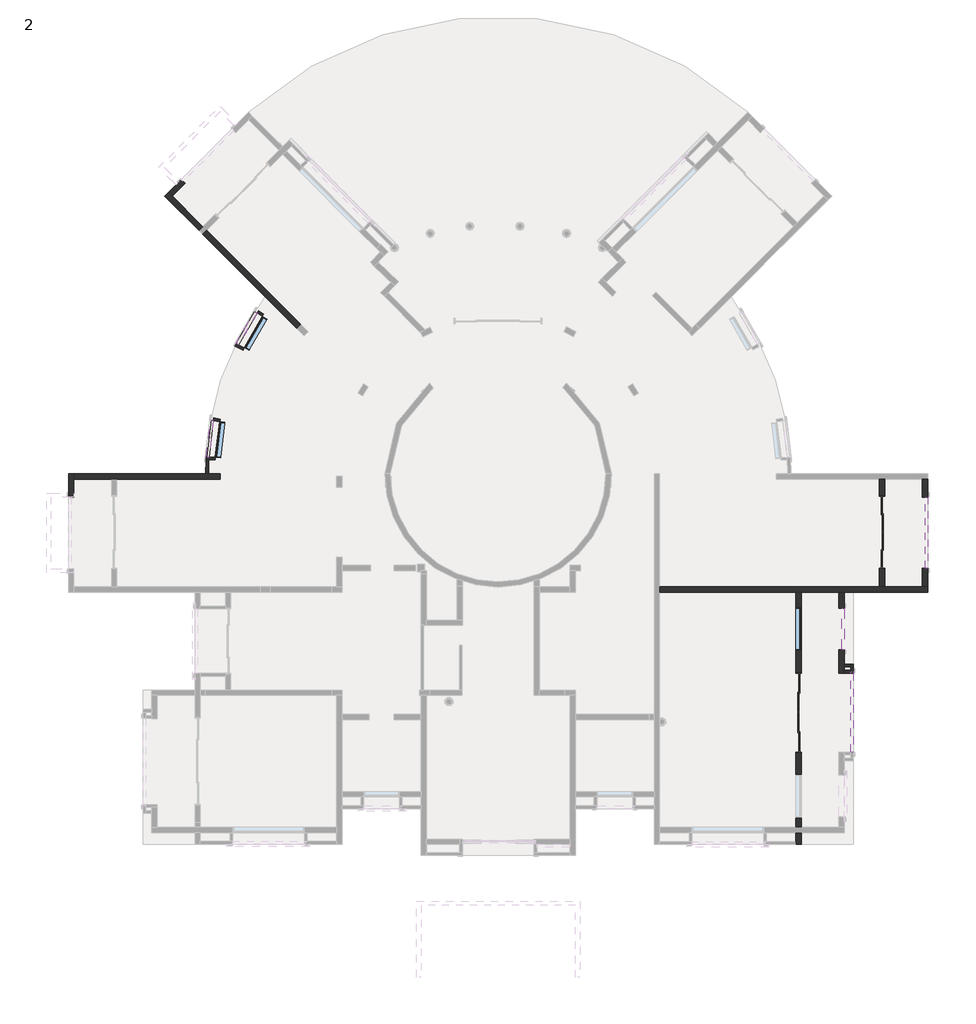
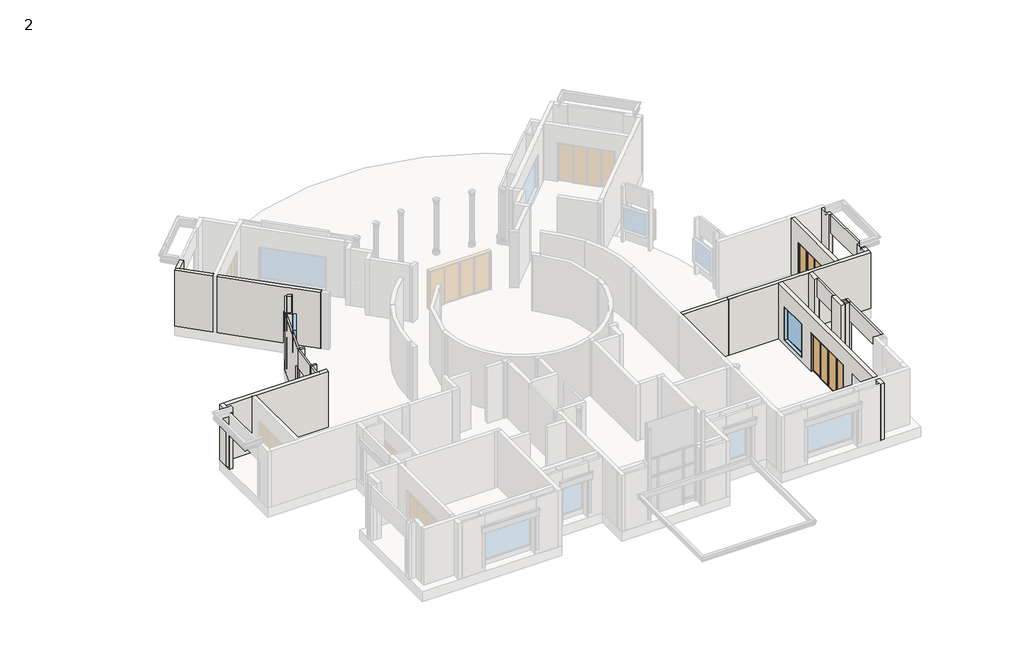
# One storey, part 3 of 10: 28 walls, 3 windows, 2 doors.
"""IFC4 building model written with IfcOpenShell, lengths in millimetres."""

from ifc_helpers import new_model, si_unit, point, frame, frame_2d, origin, origin_with_axes, place, context, project, spatial, polyline, circle_curve, trimmed, segment, composite_curve, outline, extrude, faceted_brep, transform, mapped, element, save
from ifc_brep_helpers import plane_surface, cylinder_surface, revolved_surface, advanced_brep
from components import aus_sliding_door_4_panel_type_3_7ec97240, aus_sliding_door_4_panel_type_4_3ae0efee, fixed_w2_3_782477aa, fixed_w4_aaa7ff72

model = new_model("IFC4")

# Units and contexts
model_context = context("Model", 3, world=origin())
ifc_project = project(units=[si_unit("LENGTHUNIT", "METRE", prefix="MILLI")], contexts=[model_context])

# Site, building, storey
site = spatial("IfcSite", under=ifc_project)
building = spatial("IfcBuilding", under=site)
storey = spatial("IfcBuildingStorey", under=building, Name="2", Elevation=0.0)

# Doors
placement = place(None, origin())
aus_sliding_door_4_panel_type_3_shape = aus_sliding_door_4_panel_type_3_7ec97240(model_context)
element("IfcDoor", 1, ObjectType="AUS_Sliding Door 4 Panel : Type 3", at=placement, inside=storey, context=model_context, shape_type="MappedRepresentation", body=[
    mapped(aus_sliding_door_4_panel_type_3_shape, transform((7918.2049094, -1857.8613299, 0.0), x_axis=(0.0, -1.0, 0.0), y_axis=(1.0, 0.0, 0.0), z_axis=(0.0, 0.0, 1.0))),
])
aus_sliding_door_4_panel_type_4_shape = aus_sliding_door_4_panel_type_4_3ae0efee(model_context)
element("IfcDoor", 2, ObjectType="AUS_Sliding Door 4 Panel : Type 4", at=placement, inside=storey, context=model_context, shape_type="MappedRepresentation", body=[
    mapped(aus_sliding_door_4_panel_type_4_shape, transform((4374.9049094, -9686.6761775, 0.0), x_axis=(0.0, 1.0, 0.0), y_axis=(-1.0, 0.0, 0.0), z_axis=(0.0, 0.0, 1.0))),
])

# Walls
element("IfcWall", 3, ObjectType="115mm BK WALL", at=placement, inside=storey, context=model_context, shape_type="AdvancedBrep", body=[
    advanced_brep(
    [(-20795.18386, 1125.8117433, 3581.4), (-20809.1950906, 536.0156211, 3581.4), (-20694.8950906, 536.0156211, 3581.4), (-20680.7535757, 1125.8117433, 3581.4), (-20809.1950906, 536.0156211, 0.0), (-20795.18386, 1125.8117433, 0.0), (-20680.7535757, 1125.8117433, 0.0), (-20694.8950906, 536.0156211, 0.0), (-20795.18386, 1125.8117433, 2933.7), (-20795.18386, 1125.8117433, 2438.4), (-20795.18386, 1125.8117433, 946.15), (-20795.18386, 1125.8117433, 762.0)],
    [
        (0, 1, circle_curve(frame((-8388.5950906, 536.0156211, 3581.4), z_axis=(0.0, 0.0, 1.0), x_axis=(1.0, 0.0, 0.0)), 12420.6)),
        (1, 2),
        (2, 3, circle_curve(frame((-8388.5950906, 536.0156211, 3581.4), z_axis=(0.0, 0.0, -1.0), x_axis=(1.0, 0.0, 0.0)), 12306.3)),
        (3, 0),
        (4, 5, circle_curve(frame((-8388.5950906, 536.0156211, 0.0), z_axis=(0.0, 0.0, -1.0), x_axis=(1.0, 0.0, 0.0)), 12420.6)),
        (5, 6),
        (6, 7, circle_curve(frame((-8388.5950906, 536.0156211, 0.0), z_axis=(0.0, 0.0, 1.0), x_axis=(1.0, 0.0, 0.0)), 12306.3)),
        (7, 4),
        (0, 8),
        (8, 9),
        (9, 10),
        (10, 11),
        (11, 5),
        (4, 1),
        (7, 2),
        (6, 3),
    ],
    [
        plane_surface(frame((4032.0049094, 536.0156211, 3581.4), z_axis=(0.0, 0.0, 1.0), x_axis=(0.0, 1.0, 0.0))),
        plane_surface(frame((4032.0049094, 536.0156211, 0.0), z_axis=(0.0, 0.0, -1.0), x_axis=(0.0, -1.0, 0.0))),
        cylinder_surface(frame((-8388.5950906, 536.0156211, 0.0), z_axis=(0.0, 0.0, 1.0), x_axis=(1.0, 0.0, 0.0)), 12420.6),
        plane_surface(frame((-20809.1950906, 536.0156211, 3581.4), z_axis=(0.0, -1.0, 0.0), x_axis=(0.0, 0.0, -1.0))),
        revolved_surface(polyline([(3917.7049093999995, 536.0156211, 0.0), (3917.7049093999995, 536.0156211, 3581.4)]), (-8388.5950906, 536.0156211, 0.0), (0.0, 0.0, -1.0)),
        plane_surface(frame((-20674.7364027, 1125.8117433, 0.0), z_axis=(0.0, 1.0, 0.0), x_axis=(1.0, 0.0, 0.0))),
    ],
    [
        (0, [[1, 2, 3, 4]]),
        (1, [[5, 6, 7, 8]]),
        (2, [[-1, 9, 10, 11, 12, 13, -5, 14]]),
        (3, [[-2, -14, -8, 15]]),
        (4, [[-3, -15, -7, 16]]),
        (5, [[-6, -13, -12, -11, -10, -9, -4, -16]]),
    ],
),
])
element("IfcWall", 4, ObjectType="115mm BK WALL", at=placement, inside=storey, context=model_context, shape_type="AdvancedBrep", body=[
    advanced_brep(
    [(-19563.3882612, 5957.7590635, 3581.4), (-20598.9292774, 2811.7667949, 3581.4), (-20486.7569253, 2789.7902129, 3581.4), (-20465.2981509, 2902.078918, 3581.4), (-19461.0231386, 5906.8960713, 3581.4), (-20598.9292774, 2811.7667949, 0.0), (-19563.3882612, 5957.7590635, 0.0), (-19461.0231386, 5906.8960713, 0.0), (-20465.2981509, 2902.078918, 0.0), (-20486.7569253, 2789.7902129, 0.0), (-19563.3882612, 5957.7590635, 2933.7), (-19563.3882612, 5957.7590635, 2438.4), (-19563.3882612, 5957.7590635, 914.4), (-19563.3882612, 5957.7590635, 730.25), (-20598.9292774, 2811.7667949, 762.0), (-20598.9292774, 2811.7667949, 914.4), (-20598.9292774, 2811.7667949, 946.15), (-20598.9292774, 2811.7667949, 2438.4), (-20598.9292774, 2811.7667949, 2933.7), (-20486.7569253, 2789.7902129, 2438.4), (-20486.7569253, 2789.7902129, 914.4)],
    [
        (0, 1, circle_curve(frame((-8388.5950906, 536.0156211, 3581.4), z_axis=(0.0, 0.0, 1.0), x_axis=(1.0, 0.0, 0.0)), 12420.6)),
        (1, 2),
        (2, 3, circle_curve(frame((-8388.5950906, 536.0156211, 3581.4), z_axis=(0.0, 0.0, -1.0), x_axis=(1.0, 0.0, 0.0)), 12306.3)),
        (3, 4, circle_curve(frame((-8388.5950906, 536.0156211, 3581.4), z_axis=(0.0, 0.0, -1.0), x_axis=(1.0, 0.0, 0.0)), 12306.299701)),
        (4, 0),
        (5, 6, circle_curve(frame((-8388.5950906, 536.0156211, 0.0), z_axis=(0.0, 0.0, -1.0), x_axis=(1.0, 0.0, 0.0)), 12420.6)),
        (6, 7),
        (7, 8, circle_curve(frame((-8388.5950906, 536.0156211, 0.0), z_axis=(0.0, 0.0, 1.0), x_axis=(1.0, 0.0, 0.0)), 12306.3)),
        (8, 9, circle_curve(frame((-8388.5950906, 536.0156211, 0.0), z_axis=(0.0, 0.0, 1.0), x_axis=(1.0, 0.0, 0.0)), 12306.299701)),
        (9, 5),
        (0, 10),
        (10, 11),
        (11, 12),
        (12, 13),
        (13, 6),
        (5, 14),
        (14, 15),
        (15, 16),
        (16, 17),
        (17, 18),
        (18, 1),
        (2, 19),
        (19, 20),
        (20, 9),
        (7, 4),
    ],
    [
        plane_surface(frame((4032.0049094, 536.0156211, 3581.4), z_axis=(0.0, 0.0, 1.0), x_axis=(0.0, 1.0, 0.0))),
        plane_surface(frame((4032.0049094, 536.0156211, 0.0), z_axis=(0.0, 0.0, -1.0), x_axis=(0.0, -1.0, 0.0))),
        cylinder_surface(frame((-8388.5950906, 536.0156211, 0.0), z_axis=(0.0, 0.0, 1.0), x_axis=(1.0, 0.0, 0.0)), 12420.6),
        revolved_surface(polyline([(3917.7049093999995, 536.0156211, 0.0), (3917.7049093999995, 536.0156211, 3581.4)]), (-8388.5950906, 536.0156211, 0.0), (0.0, 0.0, -1.0)),
        plane_surface(frame((-20461.9793314, 2784.9358365, 0.0), z_axis=(-0.1922628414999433, -0.9813434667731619, 0.0), x_axis=(0.9813434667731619, -0.1922628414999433, 0.0))),
        plane_surface(frame((-19461.5218603, 5907.1438752, 0.0), z_axis=(0.4449755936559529, 0.8955426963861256, 0.0), x_axis=(0.8955426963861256, -0.4449755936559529, 0.0))),
    ],
    [
        (0, [[1, 2, 3, 4, 5]]),
        (1, [[6, 7, 8, 9, 10]]),
        (2, [[-1, 11, 12, 13, 14, 15, -6, 16, 17, 18, 19, 20, 21]]),
        (3, [[-4, -3, 22, 23, 24, -9, -8, 25]]),
        (4, [[-10, -24, -23, -22, -2, -21, -20, -19, -18, -17, -16]]),
        (5, [[-7, -15, -14, -13, -12, -11, -5, -25]]),
    ],
),
])
element("IfcWall", 5, ObjectType="115mm BK WALL", at=placement, inside=storey, context=model_context, shape_type="SweptSolid", body=[
    extrude(outline(composite_curve([segment(polyline([(-18404.9130327, 7213.1009528), (-18627.5335334, 7363.1057226)]), True, "CONTINUOUS"), segment(trimmed(circle_curve(frame_2d((-8388.5950906, 536.0156211)), 12306.3), [point((-18627.5335334, 7363.1057226))], [point((-18563.6830763, 7457.9087273))], False, "CARTESIAN"), True, "CONTINUOUS"), segment(polyline([(-18563.6830763, 7457.9087273), (-18341.0425501, 7307.8904641)]), True, "CONTINUOUS"), segment(trimmed(circle_curve(frame_2d((-8388.5950906, 532.8806689)), 12039.6), [point((-18341.0425501, 7307.8904641))], [point((-18404.9130327, 7213.1009528))], True, "CARTESIAN"), True, "CONTINUOUS")], self_intersect=False)), origin_with_axes(), (0.0, 0.0, 1.0), 3581.4),
])
element("IfcWall", 6, ObjectType="115mm BK WALL", at=placement, inside=storey, context=model_context, shape_type="AdvancedBrep", body=[
    advanced_brep(
    [(-19563.3882612, 5957.7590635, 0.0), (-19461.0231386, 5906.8960713, 0.0), (-19220.9457488, 5787.6068632, 0.0), (-19220.9457488, 5787.6068632, 3581.4), (-19461.0231386, 5906.8960713, 3581.4), (-19563.3882612, 5957.7590635, 3581.4), (-19563.3882612, 5957.7590635, 2933.7), (-19563.3882612, 5957.7590635, 2438.4), (-19563.3882612, 5957.7590635, 914.4), (-19563.3882612, 5957.7590635, 730.25), (-19170.570938, 5890.2088262, 0.0), (-19410.66115, 6009.5044054, 0.0), (-19513.0216828, 6060.3651171, 0.0), (-19513.0216828, 6060.3651171, 730.25), (-19513.0216828, 6060.3651171, 914.4), (-19513.0216828, 6060.3651171, 2438.4), (-19513.0216828, 6060.3651171, 2933.7), (-19513.0216828, 6060.3651171, 3581.4), (-19410.66115, 6009.5044054, 3581.4), (-19170.570938, 5890.2088262, 3581.4)],
    [
        (0, 1),
        (1, 2),
        (2, 3),
        (3, 4),
        (4, 5),
        (5, 6),
        (6, 7),
        (7, 8),
        (8, 9),
        (9, 0),
        (10, 11),
        (11, 12),
        (12, 13),
        (13, 14),
        (14, 15),
        (15, 16),
        (16, 17),
        (17, 18),
        (18, 19),
        (19, 10),
        (0, 12, circle_curve(frame((-8388.5950906, 536.0156211, 0.0), z_axis=(0.0, 0.0, -1.0), x_axis=(1.0, 0.0, 0.0)), 12420.6)),
        (10, 2, circle_curve(frame((-8388.5950906, 532.8806689, 0.0), z_axis=(0.0, 0.0, 1.0), x_axis=(1.0, 0.0, 0.0)), 12039.6)),
        (3, 19, circle_curve(frame((-8388.5950906, 532.8806689, 3581.4), z_axis=(0.0, 0.0, -1.0), x_axis=(1.0, 0.0, 0.0)), 12039.6)),
        (17, 5, circle_curve(frame((-8388.5950906, 536.0156211, 3581.4), z_axis=(0.0, 0.0, 1.0), x_axis=(1.0, 0.0, 0.0)), 12420.6)),
    ],
    [
        plane_surface(frame((-19461.5218603, 5907.1438752, 0.0), z_axis=(-0.4449755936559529, -0.8955426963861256, 0.0), x_axis=(0.8955426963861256, -0.4449755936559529, 0.0))),
        plane_surface(frame((-19410.66115, 6009.5044054, 0.0), z_axis=(0.4449755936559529, 0.8955426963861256, 0.0), x_axis=(-0.8955426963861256, 0.4449755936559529, 0.0))),
        plane_surface(frame((-19512.5722137, 5932.5096801, 0.0), z_axis=(0.0, 0.0, -1.0), x_axis=(0.444975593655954, 0.895542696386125, 0.0))),
        plane_surface(frame((-19118.948481, 5736.92665, 3581.4), z_axis=(0.0, 0.0, 1.0), x_axis=(0.444975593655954, 0.895542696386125, 0.0))),
        cylinder_surface(frame((-8388.5950906, 536.0156211, 0.0), z_axis=(0.0, 0.0, 1.0), x_axis=(1.0, 0.0, 0.0)), 12420.6),
        revolved_surface(polyline([(3651.0049094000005, 532.8806689, 3581.4), (3651.0049094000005, 532.8806689, 0.0)]), (-8388.5950906, 532.8806689, 0.0), (0.0, 0.0, 1.0)),
    ],
    [
        (0, [[1, 2, 3, 4, 5, 6, 7, 8, 9, 10]]),
        (1, [[11, 12, 13, 14, 15, 16, 17, 18, 19, 20]]),
        (2, [[-2, -1, 21, -12, -11, 22]]),
        (3, [[-5, -4, 23, -19, -18, 24]]),
        (4, [[-21, -10, -9, -8, -7, -6, -24, -17, -16, -15, -14, -13]]),
        (5, [[-3, -22, -20, -23]]),
    ],
),
])
element("IfcWall", 7, ObjectType="115mm BK WALL", at=placement, inside=storey, context=model_context, shape_type="SweptSolid", body=[
    extrude(outline(composite_curve([segment(polyline([(-20224.4578706, 2738.4011088), (-20486.7569253, 2789.7902129)]), True, "CONTINUOUS"), segment(trimmed(circle_curve(frame_2d((-8388.5950906, 536.0156211)), 12306.3), [point((-20486.7569253, 2789.7902129))], [point((-20465.3021957, 2902.0598275))], False, "CARTESIAN"), True, "CONTINUOUS"), segment(polyline([(-20465.3021957, 2902.0598275), (-20202.9860175, 2850.6673686)]), True, "CONTINUOUS"), segment(trimmed(circle_curve(frame_2d((-8388.5950906, 532.8806689)), 12039.6), [point((-20202.9860175, 2850.6673686))], [point((-20224.4578706, 2738.4011088))], True, "CARTESIAN"), True, "CONTINUOUS")], self_intersect=False)), origin_with_axes(), (0.0, 0.0, 1.0), 3581.4),
])
element("IfcWall", 8, ObjectType="115mm BK WALL", at=placement, inside=storey, context=model_context, shape_type="AdvancedBrep", body=[
    advanced_brep(
    [(-20795.18386, 1125.8117433, 0.0), (-20680.7535757, 1125.8117433, 0.0), (-20413.5857725, 1125.8117433, 0.0), (-20413.5857725, 1125.8117433, 3581.4), (-20680.7535757, 1125.8117433, 3581.4), (-20795.18386, 1125.8117433, 3581.4), (-20795.18386, 1125.8117433, 2933.7), (-20795.18386, 1125.8117433, 2438.4), (-20795.18386, 1125.8117433, 946.15), (-20795.18386, 1125.8117433, 762.0), (-20407.4050303, 1240.1117433, 0.0), (-20674.7364027, 1240.1117433, 0.0), (-20789.2222122, 1240.1117433, 0.0), (-20789.2222122, 1240.1117433, 762.0), (-20789.2222122, 1240.1117433, 914.4), (-20789.2222122, 1240.1117433, 946.15), (-20789.2222122, 1240.1117433, 2438.4), (-20789.2222122, 1240.1117433, 2933.7), (-20789.2222122, 1240.1117433, 3581.4), (-20674.7364027, 1240.1117433, 3581.4), (-20407.4050303, 1240.1117433, 3581.4)],
    [
        (0, 1),
        (1, 2),
        (2, 3),
        (3, 4),
        (4, 5),
        (5, 6),
        (6, 7),
        (7, 8),
        (8, 9),
        (9, 0),
        (10, 11),
        (11, 12),
        (12, 13),
        (13, 14),
        (14, 15),
        (15, 16),
        (16, 17),
        (17, 18),
        (18, 19),
        (19, 20),
        (20, 10),
        (0, 12, circle_curve(frame((-8388.5950906, 536.0156211, 0.0), z_axis=(0.0, 0.0, -1.0), x_axis=(1.0, 0.0, 0.0)), 12420.6)),
        (10, 2, circle_curve(frame((-8388.5950906, 532.8806689, 0.0), z_axis=(0.0, 0.0, 1.0), x_axis=(1.0, 0.0, 0.0)), 12039.6)),
        (3, 20, circle_curve(frame((-8388.5950906, 532.8806689, 3581.4), z_axis=(0.0, 0.0, -1.0), x_axis=(1.0, 0.0, 0.0)), 12039.6)),
        (18, 5, circle_curve(frame((-8388.5950906, 536.0156211, 3581.4), z_axis=(0.0, 0.0, 1.0), x_axis=(1.0, 0.0, 0.0)), 12420.6)),
    ],
    [
        plane_surface(frame((-20674.7364027, 1125.8117433, 0.0), z_axis=(0.0, -1.0, 0.0), x_axis=(1.0, 0.0, 0.0))),
        plane_surface(frame((-20674.7364027, 1240.1117433, 0.0), z_axis=(0.0, 1.0, 0.0), x_axis=(-1.0, 0.0, 0.0))),
        plane_surface(frame((-20735.1070117, 1125.8117433, 0.0), z_axis=(0.0, 0.0, -1.0), x_axis=(0.0, 1.0, 0.0))),
        plane_surface(frame((-20296.1630491, 1125.8117433, 3581.4), z_axis=(0.0, 0.0, 1.0), x_axis=(0.0, 1.0, 0.0))),
        cylinder_surface(frame((-8388.5950906, 536.0156211, 0.0), z_axis=(0.0, 0.0, 1.0), x_axis=(1.0, 0.0, 0.0)), 12420.6),
        revolved_surface(polyline([(3651.0049094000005, 532.8806689, 3581.4), (3651.0049094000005, 532.8806689, 0.0)]), (-8388.5950906, 532.8806689, 0.0), (0.0, 0.0, 1.0)),
    ],
    [
        (0, [[1, 2, 3, 4, 5, 6, 7, 8, 9, 10]]),
        (1, [[11, 12, 13, 14, 15, 16, 17, 18, 19, 20, 21]]),
        (2, [[-2, -1, 22, -12, -11, 23]]),
        (3, [[-5, -4, 24, -20, -19, 25]]),
        (4, [[-22, -10, -9, -8, -7, -6, -25, -18, -17, -16, -15, -14, -13]]),
        (5, [[-3, -23, -21, -24]]),
    ],
),
])
element("IfcWall", 9, ObjectType="115mm BK WALL", at=placement, inside=storey, context=model_context, shape_type="Brep", body=[
    faceted_brep([(6317.0878641, -7924.5181763, 0.0), (6583.6550044, -7924.5181763, 0.0), (6583.6550044, -7924.5181763, 2438.4), (6583.6550044, -7924.5181763, 3581.4), (6317.0878641, -7924.5181763, 3581.4), (6583.6550044, -7810.2181763, 0.0), (6317.0878641, -7810.2181763, 0.0), (6317.0878641, -7810.2181763, 3581.4), (6583.6550044, -7810.2181763, 3581.4), (6583.6550044, -7867.3681763, 3581.4)], [[[0, 1, 2, 3, 4]], [[5, 6, 7, 8]], [[1, 0, 6, 5]], [[4, 3, 9, 8, 7]], [[0, 4, 7, 6]], [[1, 5, 8, 9, 3, 2]]]),
])
element("IfcWall", 10, ObjectType="115mm BK WALL", at=placement, inside=storey, context=model_context, shape_type="Brep", body=[
    faceted_brep([(6697.9550044, -7924.5181763, 0.0), (6697.9550044, -7543.5181763, 0.0), (6697.9550044, -7543.5181763, 3581.4), (6697.9550044, -7867.3681763, 3581.4), (6697.9550044, -7867.3681763, 2933.7), (6697.9550044, -7867.3681763, 2438.4), (6697.9550044, -7924.5181763, 2438.4), (6583.6550044, -7543.5181763, 0.0), (6583.6550044, -7657.8181763, 0.0), (6583.6550044, -7810.2181763, 0.0), (6583.6550044, -7924.5181763, 0.0), (6583.6550044, -7924.5181763, 2438.4), (6583.6550044, -7867.3681763, 2438.4), (6583.6550044, -7867.3681763, 3581.4), (6583.6550044, -7810.2181763, 3581.4), (6583.6550044, -7657.8181763, 3581.4), (6583.6550044, -7543.5181763, 3581.4)], [[[0, 1, 2, 3, 4, 5, 6]], [[7, 8, 9, 10, 11, 12, 13, 14, 15, 16]], [[1, 0, 10, 9, 8, 7]], [[3, 2, 16, 15, 14, 13]], [[2, 1, 7, 16]], [[3, 13, 12, 5, 4]], [[5, 12, 11, 6]], [[0, 6, 11, 10]]]),
])
element("IfcWall", 11, ObjectType="115mm BK WALL", at=placement, inside=storey, context=model_context, shape_type="SweptSolid", body=[
    extrude(outline(polyline([(6317.0878641, -7543.5181763), (6583.6550044, -7543.5181763), (6583.6550044, -7657.8181763), (6317.0878641, -7657.8181763), (6317.0878641, -7543.5181763)])), origin_with_axes(), (0.0, 0.0, 1.0), 3581.4),
])
element("IfcWall", 12, ObjectType="115mm BK WALL", at=placement, inside=storey, context=model_context, shape_type="Brep", body=[
    faceted_brep([(9747.0049094, -457.7193311, 2438.4), (9747.0049094, -3467.6193311, 2438.4), (9747.0049094, -3467.6193311, 3581.4), (9747.0049094, -457.7193311, 3581.4), (9861.3049094, -3467.6193311, 2438.4), (9861.3049094, -457.7193311, 2438.4), (9861.3049094, -457.7193311, 2933.7), (9861.3049094, -457.7193311, 3581.4), (9861.3049094, -3467.6193311, 3581.4), (9861.3049094, -3467.6193311, 2933.7)], [[[0, 1, 2, 3]], [[4, 5, 6, 7, 8, 9]], [[1, 0, 5, 4]], [[2, 1, 4, 9, 8]], [[3, 2, 8, 7]], [[0, 3, 7, 6, 5]]]),
])
element("IfcWall", 13, ObjectType="115mm BK WALL", at=placement, inside=storey, context=model_context, shape_type="Brep", body=[
    faceted_brep([(6583.6550044, -7867.3681763, 2438.4), (6583.6550044, -7924.5181763, 2438.4), (6583.6550044, -11277.3181763, 2438.4), (6583.6550044, -11277.3181763, 3581.4), (6583.6550044, -7924.5181763, 3581.4), (6583.6550044, -7867.3681763, 3581.4), (6697.9550044, -7867.3681763, 2438.4), (6697.9550044, -7867.3681763, 3581.4), (6697.9550044, -11277.3181763, 3581.4), (6697.9550044, -11277.3181763, 2438.4), (6697.9550044, -7924.5181763, 2438.4)], [[[0, 1, 2, 3, 4, 5]], [[6, 7, 8, 9, 10]], [[2, 1, 0, 6, 10, 9]], [[5, 4, 3, 8, 7]], [[0, 5, 7, 6]], [[3, 2, 9, 8]]]),
])
element("IfcWall", 14, ObjectType="115mm BK WALL", at=placement, inside=storey, context=model_context, shape_type="SweptSolid", body=[
    extrude(outline(polyline([(6317.0878641, -5169.4193311), (6317.0878641, -6932.4276926), (6202.7878641, -6932.4276926), (6202.7878641, -5169.4193311), (6317.0878641, -5169.4193311)])), frame((0.0, 0.0, 2438.4), z_axis=(0.0, 0.0, 1.0), x_axis=(1.0, 0.0, 0.0)), (0.0, 0.0, 1.0), 1143.0),
])
element("IfcWall", 15, ObjectType="115mm BK WALL", at=placement, inside=storey, context=model_context, shape_type="AdvancedBrep", body=[
    advanced_brep(
    [(-20598.9292774, 2811.7667949, 3581.4), (-20789.2222122, 1240.1117433, 3581.4), (-20674.7364027, 1240.1117433, 3581.4), (-20486.7569253, 2789.7902129, 3581.4), (-20789.2222122, 1240.1117433, 2438.4), (-20598.9292774, 2811.7667949, 2438.4), (-20486.7569253, 2789.7902129, 2438.4), (-20674.7364027, 1240.1117433, 2438.4), (-20598.9292774, 2811.7667949, 2933.7), (-20789.2222122, 1240.1117433, 2933.7)],
    [
        (0, 1, circle_curve(frame((-8388.5950904, 536.0156211, 3581.4), z_axis=(0.0, 0.0, 1.0), x_axis=(1.0, 0.0, 0.0)), 12420.6000002)),
        (1, 2),
        (2, 3, circle_curve(frame((-8388.5950904, 536.0156211, 3581.4), z_axis=(0.0, 0.0, -1.0), x_axis=(1.0, 0.0, 0.0)), 12306.3000002)),
        (3, 0),
        (4, 5, circle_curve(frame((-8388.5950904, 536.0156211, 2438.4), z_axis=(0.0, 0.0, -1.0), x_axis=(1.0, 0.0, 0.0)), 12420.6000002)),
        (5, 6),
        (6, 7, circle_curve(frame((-8388.5950904, 536.0156211, 2438.4), z_axis=(0.0, 0.0, 1.0), x_axis=(1.0, 0.0, 0.0)), 12306.3000002)),
        (7, 4),
        (0, 8),
        (8, 5),
        (4, 9),
        (9, 1),
        (2, 7),
        (6, 3),
    ],
    [
        plane_surface(frame((4032.0049098, 536.0156211, 3581.4), z_axis=(0.0, 0.0, 1.0), x_axis=(0.0, 1.0, 0.0))),
        plane_surface(frame((4032.0049098, 536.0156211, 2438.4), z_axis=(0.0, 0.0, -1.0), x_axis=(0.0, -1.0, 0.0))),
        cylinder_surface(frame((-8388.5950904, 536.0156211, 2438.4), z_axis=(0.0, 0.0, 1.0), x_axis=(1.0, 0.0, 0.0)), 12420.6000002),
        revolved_surface(polyline([(3917.7049098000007, 536.0156211, 2438.4), (3917.7049098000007, 536.0156211, 3581.4)]), (-8388.5950904, 536.0156211, 2438.4), (0.0, 0.0, -1.0)),
        plane_surface(frame((-20461.9793314, 2784.9358365, 0.0), z_axis=(0.1922628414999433, 0.9813434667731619, 0.0), x_axis=(0.9813434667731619, -0.1922628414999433, 0.0))),
        plane_surface(frame((-20674.7364027, 1240.1117433, 0.0), z_axis=(0.0, -1.0, 0.0), x_axis=(-1.0, 0.0, 0.0))),
    ],
    [
        (0, [[1, 2, 3, 4]]),
        (1, [[5, 6, 7, 8]]),
        (2, [[-1, 9, 10, -5, 11, 12]]),
        (3, [[-3, 13, -7, 14]]),
        (4, [[-4, -14, -6, -10, -9]]),
        (5, [[-2, -12, -11, -8, -13]]),
    ],
),
])
element("IfcWall", 16, ObjectType="115mm BK WALL", at=placement, inside=storey, context=model_context, shape_type="AdvancedBrep", body=[
    advanced_brep(
    [(-18727.2981567, 7419.5120633, 3581.4), (-19513.0216828, 6060.3651171, 3581.4), (-19410.66115, 6009.5044054, 3581.4), (-18632.1567175, 7356.167004, 3581.4), (-19513.0216828, 6060.3651171, 2438.4), (-18727.2981567, 7419.5120633, 2438.4), (-18632.1567175, 7356.167004, 2438.4), (-19410.66115, 6009.5044054, 2438.4), (-18727.2981567, 7419.5120633, 2933.7), (-19513.0216828, 6060.3651171, 2933.7)],
    [
        (0, 1, circle_curve(frame((-8388.5950905, 536.0156211, 3581.4), z_axis=(0.0, 0.0, 1.0), x_axis=(1.0, 0.0, 0.0)), 12420.6000001)),
        (1, 2),
        (2, 3, circle_curve(frame((-8388.5950905, 536.0156211, 3581.4), z_axis=(0.0, 0.0, -1.0), x_axis=(1.0, 0.0, 0.0)), 12306.3000001)),
        (3, 0),
        (4, 5, circle_curve(frame((-8388.5950905, 536.0156211, 2438.4), z_axis=(0.0, 0.0, -1.0), x_axis=(1.0, 0.0, 0.0)), 12420.6000001)),
        (5, 6),
        (6, 7, circle_curve(frame((-8388.5950905, 536.0156211, 2438.4), z_axis=(0.0, 0.0, 1.0), x_axis=(1.0, 0.0, 0.0)), 12306.3000001)),
        (7, 4),
        (0, 8),
        (8, 5),
        (4, 9),
        (9, 1),
        (2, 7),
        (6, 3),
    ],
    [
        plane_surface(frame((4032.0049097, 536.0156211, 3581.4), z_axis=(0.0, 0.0, 1.0), x_axis=(0.0, 1.0, 0.0))),
        plane_surface(frame((4032.0049097, 536.0156211, 2438.4), z_axis=(0.0, 0.0, -1.0), x_axis=(0.0, -1.0, 0.0))),
        cylinder_surface(frame((-8388.5950905, 536.0156211, 2438.4), z_axis=(0.0, 0.0, 1.0), x_axis=(1.0, 0.0, 0.0)), 12420.6000001),
        revolved_surface(polyline([(3917.704909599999, 536.0156211, 2438.4), (3917.704909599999, 536.0156211, 3581.4)]), (-8388.5950905, 536.0156211, 2438.4), (0.0, 0.0, -1.0)),
        plane_surface(frame((-18632.1567175, 7356.167004, 3581.4), z_axis=(0.5541999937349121, 0.8323835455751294, 0.0), x_axis=(0.0, 0.0, -1.0))),
        plane_surface(frame((-19410.66115, 6009.5044054, 0.0), z_axis=(-0.4449755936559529, -0.8955426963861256, 0.0), x_axis=(-0.8955426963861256, 0.4449755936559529, 0.0))),
    ],
    [
        (0, [[1, 2, 3, 4]]),
        (1, [[5, 6, 7, 8]]),
        (2, [[-1, 9, 10, -5, 11, 12]]),
        (3, [[-3, 13, -7, 14]]),
        (4, [[-4, -14, -6, -10, -9]]),
        (5, [[-2, -12, -11, -8, -13]]),
    ],
),
])
element("IfcWall", 17, ObjectType="115mm BK WALL 2", at=placement, inside=storey, context=model_context, shape_type="AdvancedBrep", body=[
    advanced_brep(
    [(-20598.9292774, 2811.7667949, 914.4), (-20789.2222122, 1240.1117433, 914.4), (-20674.7364027, 1240.1117433, 914.4), (-20486.7569253, 2789.7902129, 914.4), (-20789.2222122, 1240.1117433, 0.0), (-20598.9292774, 2811.7667949, 0.0), (-20486.7569253, 2789.7902129, 0.0), (-20674.7364027, 1240.1117433, 0.0), (-20598.9292774, 2811.7667949, 762.0), (-20789.2222122, 1240.1117433, 762.0)],
    [
        (0, 1, circle_curve(frame((-8388.5950905, 536.0156211, 914.4), z_axis=(0.0, 0.0, 1.0), x_axis=(1.0, 0.0, 0.0)), 12420.6000001)),
        (1, 2),
        (2, 3, circle_curve(frame((-8388.5950905, 536.0156211, 914.4), z_axis=(0.0, 0.0, -1.0), x_axis=(1.0, 0.0, 0.0)), 12306.3000001)),
        (3, 0),
        (4, 5, circle_curve(frame((-8388.5950905, 536.0156211, 0.0), z_axis=(0.0, 0.0, -1.0), x_axis=(1.0, 0.0, 0.0)), 12420.6000001)),
        (5, 6),
        (6, 7, circle_curve(frame((-8388.5950905, 536.0156211, 0.0), z_axis=(0.0, 0.0, 1.0), x_axis=(1.0, 0.0, 0.0)), 12306.3000001)),
        (7, 4),
        (0, 8),
        (8, 5),
        (4, 9),
        (9, 1),
        (2, 7),
        (6, 3),
    ],
    [
        plane_surface(frame((4032.0049095, 536.0156211, 914.4), z_axis=(0.0, 0.0, 1.0), x_axis=(0.0, 1.0, 0.0))),
        plane_surface(frame((4032.0049095, 536.0156211, 0.0), z_axis=(0.0, 0.0, -1.0), x_axis=(0.0, -1.0, 0.0))),
        cylinder_surface(frame((-8388.5950905, 536.0156211, 0.0), z_axis=(0.0, 0.0, 1.0), x_axis=(1.0, 0.0, 0.0)), 12420.6000001),
        revolved_surface(polyline([(3917.704909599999, 536.0156211, 0.0), (3917.704909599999, 536.0156211, 914.4)]), (-8388.5950905, 536.0156211, 0.0), (0.0, 0.0, -1.0)),
        plane_surface(frame((-20461.9793314, 2784.9358365, 0.0), z_axis=(0.1922628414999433, 0.9813434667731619, 0.0), x_axis=(0.9813434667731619, -0.1922628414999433, 0.0))),
        plane_surface(frame((-20674.7364027, 1240.1117433, 0.0), z_axis=(0.0, -1.0, 0.0), x_axis=(-1.0, 0.0, 0.0))),
    ],
    [
        (0, [[1, 2, 3, 4]]),
        (1, [[5, 6, 7, 8]]),
        (2, [[-1, 9, 10, -5, 11, 12]]),
        (3, [[-3, 13, -7, 14]]),
        (4, [[-4, -14, -6, -10, -9]]),
        (5, [[-2, -12, -11, -8, -13]]),
    ],
),
])
element("IfcWall", 18, ObjectType="115mm BK WALL 2", at=placement, inside=storey, context=model_context, shape_type="AdvancedBrep", body=[
    advanced_brep(
    [(-18727.2981567, 7419.5120633, 914.4), (-19513.0216828, 6060.3651171, 914.4), (-19410.66115, 6009.5044054, 914.4), (-18632.1567175, 7356.167004, 914.4), (-19513.0216828, 6060.3651171, 0.0), (-18727.2981567, 7419.5120633, 0.0), (-18632.1567175, 7356.167004, 0.0), (-19410.66115, 6009.5044054, 0.0), (-18727.2981567, 7419.5120633, 730.25), (-19513.0216828, 6060.3651171, 730.25)],
    [
        (0, 1, circle_curve(frame((-8388.5950904, 536.015621, 914.4), z_axis=(0.0, 0.0, 1.0), x_axis=(1.0, 0.0, 0.0)), 12420.6000002)),
        (1, 2),
        (2, 3, circle_curve(frame((-8388.5950904, 536.015621, 914.4), z_axis=(0.0, 0.0, -1.0), x_axis=(1.0, 0.0, 0.0)), 12306.3000002)),
        (3, 0),
        (4, 5, circle_curve(frame((-8388.5950904, 536.015621, 0.0), z_axis=(0.0, 0.0, -1.0), x_axis=(1.0, 0.0, 0.0)), 12420.6000002)),
        (5, 6),
        (6, 7, circle_curve(frame((-8388.5950904, 536.015621, 0.0), z_axis=(0.0, 0.0, 1.0), x_axis=(1.0, 0.0, 0.0)), 12306.3000002)),
        (7, 4),
        (0, 8),
        (8, 5),
        (4, 9),
        (9, 1),
        (2, 7),
        (6, 3),
    ],
    [
        plane_surface(frame((4032.0049098, 536.015621, 914.4), z_axis=(0.0, 0.0, 1.0), x_axis=(0.0, 1.0, 0.0))),
        plane_surface(frame((4032.0049098, 536.015621, 0.0), z_axis=(0.0, 0.0, -1.0), x_axis=(0.0, -1.0, 0.0))),
        cylinder_surface(frame((-8388.5950904, 536.015621, 0.0), z_axis=(0.0, 0.0, 1.0), x_axis=(1.0, 0.0, 0.0)), 12420.6000002),
        revolved_surface(polyline([(3917.7049098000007, 536.015621, 0.0), (3917.7049098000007, 536.015621, 914.4)]), (-8388.5950904, 536.015621, 0.0), (0.0, 0.0, -1.0)),
        plane_surface(frame((-18632.1567175, 7356.167004, 914.4), z_axis=(0.5541999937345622, 0.8323835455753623, 0.0), x_axis=(0.0, 0.0, -1.0))),
        plane_surface(frame((-19410.66115, 6009.5044054, 0.0), z_axis=(-0.4449755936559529, -0.8955426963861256, 0.0), x_axis=(-0.8955426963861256, 0.4449755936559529, 0.0))),
    ],
    [
        (0, [[1, 2, 3, 4]]),
        (1, [[5, 6, 7, 8]]),
        (2, [[-1, 9, 10, -5, 11, 12]]),
        (3, [[-3, 13, -7, 14]]),
        (4, [[-4, -14, -6, -10, -9]]),
        (5, [[-2, -12, -11, -8, -13]]),
    ],
),
])
element("IfcWall", 19, ObjectType="230mm BK WALL", at=placement, inside=storey, context=model_context, shape_type="Brep", body=[
    faceted_brep([(-1530.5950906, -4496.3193311, 0.0), (4260.6049094, -4496.3193311, 0.0), (4489.2049094, -4496.3193311, 0.0), (6088.4878641, -4496.3193311, 0.0), (6317.0878641, -4496.3193311, 0.0), (9861.3049094, -4496.3193311, 0.0), (9861.3049094, -4496.3193311, 3581.4), (6317.0878641, -4496.3193311, 3581.4), (6088.4878641, -4496.3193311, 3581.4), (4489.2049094, -4496.3193311, 3581.4), (4260.6049094, -4496.3193311, 3581.4), (-1530.5950906, -4496.3193311, 3581.4), (-1530.5950906, -4267.7193311, 0.0), (-1530.5950906, -4267.7193311, 3581.4), (7803.9049094, -4267.7193311, 3581.4), (8032.5049094, -4267.7193311, 3581.4), (9632.7049094, -4267.7193311, 3581.4), (9861.3049094, -4267.7193311, 3581.4), (9861.3049094, -4267.7193311, 0.0), (9632.7049094, -4267.7193311, 0.0), (8032.5049094, -4267.7193311, 0.0), (7803.9049094, -4267.7193311, 0.0)], [[[0, 1, 2, 3, 4, 5, 6, 7, 8, 9, 10, 11]], [[12, 13, 14, 15, 16, 17, 18, 19, 20, 21]], [[5, 4, 3, 2, 1, 0, 12, 21, 20, 19, 18]], [[11, 10, 9, 8, 7, 6, 17, 16, 15, 14, 13]], [[6, 5, 18, 17]], [[0, 11, 13, 12]]]),
])
element("IfcWall", 20, ObjectType="230mm BK WALL", at=placement, inside=storey, context=model_context, shape_type="AdvancedBrep", body=[
    advanced_brep(
    [(9861.3049094, -4267.7193311, 0.0), (9861.3049094, -3467.6193311, 0.0), (9861.3049094, -3467.6193311, 2438.4), (9861.3049094, -3467.6193311, 2933.7), (9861.3049094, -3467.6193311, 3581.4), (9861.3049094, -4267.7193311, 3581.4), (9861.3049094, -3696.2193311, 2908.3), (9861.3049094, -3696.2193311, 2933.7), (9861.3049094, -3588.2693311, 2933.7), (9861.3049094, -3588.2693311, 2438.4), (9861.3049094, -3648.9624745, 2438.4), (9861.3049094, -3648.9624745, 2482.85), (9861.3049094, -3661.6624745, 2482.85), (9861.3049094, -3661.6624745, 2838.45), (9861.3049094, -3677.1693311, 2838.45), (9861.3049094, -3677.1693311, 2857.5), (9861.3049094, -3677.1693311, 2908.3), (9632.7049094, -3467.6193311, 0.0), (9632.7049094, -4267.7193311, 0.0), (9632.7049094, -4267.7193311, 3581.4), (9632.7049094, -3467.6193311, 3581.4), (9747.0049094, -3467.6193311, 3581.4), (9854.9549094, -3588.2693311, 2933.7), (9854.9549094, -3696.2193311, 2933.7), (9854.9549094, -3696.2193311, 2908.3), (9854.9549094, -3677.1693311, 2908.3), (9854.9549094, -3677.1693311, 2857.5), (9854.9549094, -3677.1693311, 2838.45), (9854.9549094, -3661.6624745, 2838.45), (9854.9549094, -3661.6624745, 2482.85), (9854.9549094, -3648.9624745, 2482.85), (9854.9549094, -3648.9624745, 2438.4), (9854.9549094, -3588.2693311, 2438.4)],
    [
        (0, 1),
        (1, 2),
        (2, 3),
        (3, 4),
        (4, 5),
        (5, 0),
        (6, 7),
        (7, 8),
        (8, 9),
        (9, 10),
        (10, 11),
        (11, 12),
        (12, 13),
        (13, 14),
        (14, 15),
        (15, 16, circle_curve(frame((9861.3049094, -3664.74139, 2882.9), z_axis=(-1.0, 0.0, 0.0), x_axis=(0.0, -1.0, 0.0)), 28.2774419)),
        (16, 6),
        (17, 18),
        (18, 19),
        (19, 20),
        (20, 17),
        (0, 18),
        (17, 1),
        (20, 21),
        (21, 4),
        (19, 5),
        (22, 23),
        (23, 24),
        (24, 25),
        (25, 26, circle_curve(frame((9854.9549094, -3664.74139, 2882.9), z_axis=(1.0, 0.0, 0.0), x_axis=(0.0, -1.0, 0.0)), 28.2774419)),
        (26, 27),
        (27, 28),
        (28, 29),
        (29, 30),
        (30, 31),
        (31, 32),
        (32, 22),
        (23, 7),
        (6, 24),
        (16, 25),
        (15, 26),
        (14, 27),
        (13, 28),
        (12, 29),
        (11, 30),
        (10, 31),
        (9, 32),
        (8, 22),
    ],
    [
        plane_surface(frame((9861.3049094, -4382.0193311, 0.0), z_axis=(1.0, 0.0, 0.0), x_axis=(0.0, 1.0, 0.0))),
        plane_surface(frame((9632.7049094, -4382.0193311, 0.0), z_axis=(-1.0, 0.0, 0.0), x_axis=(0.0, -1.0, 0.0))),
        plane_surface(frame((9861.3049094, -4382.0193311, 0.0), z_axis=(0.0, 0.0, -1.0), x_axis=(-1.0, 0.0, 0.0))),
        plane_surface(frame((9861.3049094, -3467.6193311, 0.0), z_axis=(0.0, 1.0, 0.0), x_axis=(-1.0, 0.0, 0.0))),
        plane_surface(frame((9861.3049094, -3467.6193311, 3581.4), z_axis=(0.0, 0.0, 1.0), x_axis=(-1.0, 0.0, 0.0))),
        plane_surface(frame((-1755.5950906, -4267.7193311, 0.0), z_axis=(0.0, -1.0, 0.0), x_axis=(-1.0, 0.0, 0.0))),
        plane_surface(frame((9854.9549094, -457.7193311, 2438.4), z_axis=(1.0, 0.0, 0.0), x_axis=(0.0, 1.0, 0.0))),
        plane_surface(frame((9969.2549094, -3696.2193311, 2933.7), z_axis=(0.0, 1.0, 0.0), x_axis=(-1.0, 0.0, 0.0))),
        plane_surface(frame((9969.2549094, -3696.2193311, 2908.3), z_axis=(0.0, 0.0, 1.0), x_axis=(-1.0, 0.0, 0.0))),
        revolved_surface(polyline([(9861.3049094, -3693.0188319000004, 2882.9), (9854.9549094, -3693.0188319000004, 2882.9)]), (9861.3049094, -3664.74139, 2882.9), (1.0, 0.0, 0.0)),
        plane_surface(frame((9950.2049094, -3677.1693311, 2857.5), z_axis=(0.0, 1.0, 0.0), x_axis=(-1.0, 0.0, 0.0))),
        plane_surface(frame((9950.2049094, -3677.1693311, 2838.45), z_axis=(0.0, 0.0, 1.0), x_axis=(-1.0, 0.0, 0.0))),
        plane_surface(frame((9934.6980528, -3661.6624745, 2838.45), z_axis=(0.0, 1.0, 0.0), x_axis=(-1.0, 0.0, 0.0))),
        plane_surface(frame((9934.6980528, -3661.6624745, 2482.85), z_axis=(0.0, 0.0, 1.0), x_axis=(-1.0, 0.0, 0.0))),
        plane_surface(frame((9921.9980528, -3648.9624745, 2482.85), z_axis=(0.0, 1.0, 0.0), x_axis=(-1.0, 0.0, 0.0))),
        plane_surface(frame((9921.9980528, -3648.9624745, 2438.4), z_axis=(0.0, 0.0, 1.0), x_axis=(-1.0, 0.0, 0.0))),
        plane_surface(frame((9861.3049094, -3588.2693311, 2438.4), z_axis=(0.0, -1.0, 0.0), x_axis=(-1.0, 0.0, 0.0))),
        plane_surface(frame((9861.3049094, -3588.2693311, 2933.7), z_axis=(0.0, 0.0, -1.0), x_axis=(-1.0, 0.0, 0.0))),
    ],
    [
        (0, [[1, 2, 3, 4, 5, 6], [7, 8, 9, 10, 11, 12, 13, 14, 15, 16, 17]]),
        (1, [[18, 19, 20, 21]]),
        (2, [[-1, 22, -18, 23]]),
        (3, [[-21, 24, 25, -4, -3, -2, -23]]),
        (4, [[-5, -25, -24, -20, 26]]),
        (5, [[-6, -26, -19, -22]]),
        (6, [[27, 28, 29, 30, 31, 32, 33, 34, 35, 36, 37]]),
        (7, [[-28, 38, -7, 39]]),
        (8, [[-29, -39, -17, 40]]),
        (9, [[-30, -40, -16, 41]]),
        (10, [[-31, -41, -15, 42]]),
        (11, [[-32, -42, -14, 43]]),
        (12, [[-33, -43, -13, 44]]),
        (13, [[-34, -44, -12, 45]]),
        (14, [[-35, -45, -11, 46]]),
        (15, [[-36, -46, -10, 47]]),
        (16, [[-37, -47, -9, 48]]),
        (17, [[-27, -48, -8, -38]]),
    ],
),
])
element("IfcWall", 21, ObjectType="230mm BK WALL", at=placement, inside=storey, context=model_context, shape_type="Brep", body=[
    faceted_brep([(9632.7049094, 304.2806689, 0.0), (9632.7049094, -457.7193311, 0.0), (9632.7049094, -457.7193311, 3581.4), (9632.7049094, 304.2806689, 3581.4), (9861.3049094, -457.7193311, 0.0), (9861.3049094, 304.2806689, 0.0), (9861.3049094, 304.2806689, 3581.4), (9861.3049094, -457.7193311, 3581.4), (9861.3049094, -457.7193311, 2933.7), (9861.3049094, -457.7193311, 2438.4), (9747.0049094, -457.7193311, 3581.4)], [[[0, 1, 2, 3]], [[4, 5, 6, 7, 8, 9]], [[1, 0, 5, 4]], [[2, 1, 4, 9, 8, 7, 10]], [[3, 2, 10, 7, 6]], [[0, 3, 6, 5]]]),
])
element("IfcWall", 22, ObjectType="230mm BK WALL", at=placement, inside=storey, context=model_context, shape_type="SweptSolid", body=[
    extrude(outline(polyline([(-4267.7193311, 3581.4), (304.2806689, 3581.4), (304.2806689, 0.0), (-379.6193311, 0.0), (-379.6193311, 2478.4), (-3507.6193311, 2478.4), (-3507.6193311, 0.0), (-4267.7193311, 0.0), (-4267.7193311, 3581.4)])), frame((7803.9049094, 0.0, 0.0), z_axis=(1.0, 0.0, 0.0), x_axis=(0.0, 1.0, 0.0)), (0.0, 0.0, 1.0), 228.6),
])
element("IfcWall", 23, ObjectType="230mm BK WALL", at=placement, inside=storey, context=model_context, shape_type="Brep", body=[
    faceted_brep([(6088.4878641, -4496.3193311, 0.0), (6088.4878641, -5169.4193311, 0.0), (6088.4878641, -5169.4193311, 3581.4), (6088.4878641, -4496.3193311, 3581.4), (6317.0878641, -5169.4193311, 0.0), (6317.0878641, -4496.3193311, 0.0), (6317.0878641, -4496.3193311, 3581.4), (6317.0878641, -5169.4193311, 3581.4), (6317.0878641, -5169.4193311, 2933.7), (6317.0878641, -5169.4193311, 2438.4), (6202.7878641, -5169.4193311, 3581.4)], [[[0, 1, 2, 3]], [[4, 5, 6, 7, 8, 9]], [[1, 0, 5, 4]], [[2, 1, 4, 9, 8, 7, 10]], [[3, 2, 10, 7, 6]], [[0, 3, 6, 5]]]),
])
element("IfcWall", 24, ObjectType="230mm BK WALL", at=placement, inside=storey, context=model_context, shape_type="Brep", body=[
    faceted_brep([(4260.6049094, -15202.4193311, 3581.4), (4260.6049094, -15088.1193311, 3581.4), (4260.6049094, -4496.3193311, 3581.4), (4260.6049094, -4496.3193311, 0.0), (4260.6049094, -7884.5181763, 0.0), (4260.6049094, -7884.5181763, 2478.4), (4260.6049094, -11317.3181763, 2478.4), (4260.6049094, -11317.3181763, 0.0), (4260.6049094, -15088.1193311, 0.0), (4260.6049094, -15202.4193311, 0.0), (4260.6049094, -14064.9681763, 2438.4), (4260.6049094, -14064.9681763, 304.8), (4260.6049094, -12236.1681763, 304.8), (4260.6049094, -12236.1681763, 2438.4), (4260.6049094, -6965.6681763, 2438.4), (4260.6049094, -6965.6681763, 304.8), (4260.6049094, -5136.8681763, 304.8), (4260.6049094, -5136.8681763, 2438.4), (4489.2049094, -4496.3193311, 3581.4), (4489.2049094, -15202.4193311, 3581.4), (4489.2049094, -15202.4193311, 0.0), (4489.2049094, -11317.3181763, 0.0), (4489.2049094, -11317.3181763, 2478.4), (4489.2049094, -7884.5181763, 2478.4), (4489.2049094, -7884.5181763, 0.0), (4489.2049094, -4496.3193311, 0.0), (4489.2049094, -14064.9681763, 2438.4), (4489.2049094, -12236.1681763, 2438.4), (4489.2049094, -12236.1681763, 304.8), (4489.2049094, -14064.9681763, 304.8), (4489.2049094, -6965.6681763, 2438.4), (4489.2049094, -5136.8681763, 2438.4), (4489.2049094, -5136.8681763, 304.8), (4489.2049094, -6965.6681763, 304.8)], [[[0, 1, 2, 3, 4, 5, 6, 7, 8, 9], [10, 11, 12, 13], [14, 15, 16, 17]], [[18, 19, 20, 21, 22, 23, 24, 25], [26, 27, 28, 29], [30, 31, 32, 33]], [[20, 9, 8, 7, 21]], [[3, 25, 24, 4]], [[2, 1, 0, 19, 18]], [[0, 9, 20, 19]], [[3, 2, 18, 25]], [[6, 22, 21, 7]], [[22, 6, 5, 23]], [[23, 5, 4, 24]], [[11, 10, 26, 29]], [[12, 11, 29, 28]], [[13, 12, 28, 27]], [[10, 13, 27, 26]], [[15, 14, 30, 33]], [[16, 15, 33, 32]], [[17, 16, 32, 31]], [[14, 17, 31, 30]]]),
])
element("IfcWall", 25, ObjectType="230mm BK WALL", at=placement, inside=storey, context=model_context, shape_type="Brep", body=[
    faceted_brep([(-26637.5780453, 532.8806689, 0.0), (-26637.5780453, -456.9181763, 0.0), (-26637.5780453, -456.9181763, 2438.4), (-26637.5780453, -456.9181763, 2933.7), (-26637.5780453, -456.9181763, 3581.4), (-26637.5780453, 532.8806689, 3581.4), (-26408.9780453, -456.9181763, 0.0), (-26408.9780453, 304.2806689, 0.0), (-26408.9780453, 532.8806689, 0.0), (-26408.9780453, 532.8806689, 3581.4), (-26408.9780453, 304.2806689, 3581.4), (-26408.9780453, -456.9181763, 3581.4), (-26523.2780453, -456.9181763, 3581.4)], [[[0, 1, 2, 3, 4, 5]], [[6, 7, 8, 9, 10, 11]], [[1, 0, 8, 7, 6]], [[6, 11, 12, 4, 3, 2, 1]], [[5, 4, 12, 11, 10, 9]], [[0, 5, 9, 8]]]),
])
element("IfcWall", 26, ObjectType="230mm BK WALL", at=placement, inside=storey, context=model_context, shape_type="AdvancedBrep", body=[
    advanced_brep(
    [(-26408.9780453, 304.2806689, 0.0), (-24809.6950906, 304.2806689, 0.0), (-24581.0950906, 304.2806689, 0.0), (-20197.3826253, 304.2806689, 0.0), (-20197.3826253, 304.2806689, 3581.4), (-24581.0950906, 304.2806689, 3581.4), (-24809.6950906, 304.2806689, 3581.4), (-26408.9780453, 304.2806689, 3581.4), (-26408.9780453, 532.8806689, 0.0), (-26408.9780453, 532.8806689, 3581.4), (-20428.1950906, 532.8806689, 3581.4), (-20199.5950906, 532.8806689, 3581.4), (-20199.5950906, 532.8806689, 0.0), (-20428.1950906, 532.8806689, 0.0)],
    [
        (0, 1),
        (1, 2),
        (2, 3),
        (3, 4),
        (4, 5),
        (5, 6),
        (6, 7),
        (7, 0),
        (8, 9),
        (9, 10),
        (10, 11),
        (11, 12),
        (12, 13),
        (13, 8),
        (0, 8),
        (12, 3, circle_curve(frame((-8388.5950906, 532.8806689, 0.0), z_axis=(0.0, 0.0, 1.0), x_axis=(1.0, 0.0, 0.0)), 11811.0)),
        (4, 11, circle_curve(frame((-8388.5950906, 532.8806689, 3581.4), z_axis=(0.0, 0.0, -1.0), x_axis=(1.0, 0.0, 0.0)), 11811.0)),
        (9, 7),
    ],
    [
        plane_surface(frame((-26523.2780453, 304.2806689, 0.0), z_axis=(0.0, -1.0, 0.0), x_axis=(1.0, 0.0, 0.0))),
        plane_surface(frame((-26523.2780453, 532.8806689, 0.0), z_axis=(0.0, 1.0, 0.0), x_axis=(-1.0, 0.0, 0.0))),
        plane_surface(frame((-26523.2780453, 304.2806689, 0.0), z_axis=(0.0, 0.0, -1.0), x_axis=(0.0, 1.0, 0.0))),
        plane_surface(frame((-20313.3473144, 304.2806689, 3581.4), z_axis=(0.0, 0.0, 1.0), x_axis=(0.0, 1.0, 0.0))),
        revolved_surface(polyline([(3422.4049094, 532.8806689, 0.0), (3422.4049094, 532.8806689, 3581.4)]), (-8388.5950906, 532.8806689, 0.0), (0.0, 0.0, -1.0)),
        plane_surface(frame((-26408.9780453, 418.5806689, 0.0), z_axis=(-1.0, 0.0, 0.0), x_axis=(0.0, 1.0, 0.0))),
    ],
    [
        (0, [[1, 2, 3, 4, 5, 6, 7, 8]]),
        (1, [[9, 10, 11, 12, 13, 14]]),
        (2, [[-3, -2, -1, 15, -14, -13, 16]]),
        (3, [[-7, -6, -5, 17, -11, -10, 18]]),
        (4, [[-4, -16, -12, -17]]),
        (5, [[-8, -18, -9, -15]]),
    ],
),
])
element("IfcWall", 27, ObjectType="230mm BK WALL", at=placement, inside=storey, context=model_context, shape_type="Brep", body=[
    faceted_brep([(-16785.2423226, 6882.0295053, 0.0), (-20770.2537393, 10867.040922, 0.0), (-20770.2537393, 10867.040922, 3581.4), (-16785.2423226, 6882.0295053, 3581.4), (-16946.8869328, 6720.3848952, 0.0), (-16946.8869328, 6720.3848952, 3581.4), (-17841.0743596, 7614.5723219, 3581.4), (-18004.3403503, 7777.8383126, 3581.4), (-18196.0919007, 7969.589863, 3581.4), (-18277.6696289, 8051.1675913, 3581.4), (-20931.8983495, 10705.3963119, 3581.4), (-20931.8983495, 10705.3963119, 0.0), (-18277.6696289, 8051.1675913, 0.0), (-18196.0919007, 7969.589863, 0.0), (-18004.3403503, 7777.8383126, 0.0), (-17841.0743596, 7614.5723219, 0.0)], [[[0, 1, 2, 3]], [[4, 5, 6, 7, 8, 9, 10, 11, 12, 13, 14, 15]], [[1, 0, 4, 15, 14, 13, 12, 11]], [[3, 2, 10, 9, 8, 7, 6, 5]], [[0, 3, 5, 4]], [[2, 1, 11, 10]]]),
])
element("IfcWall", 28, ObjectType="230mm BK WALL", at=placement, inside=storey, context=model_context, shape_type="Brep", body=[
    faceted_brep([(-20931.8983495, 11028.6855322, 0.0), (-22227.6506425, 12324.4378252, 0.0), (-22389.2952527, 12486.0824354, 0.0), (-22389.2952527, 12486.0824354, 3581.4), (-22227.6506425, 12324.4378252, 3581.4), (-20931.8983495, 11028.6855322, 3581.4), (-21093.5429597, 10867.040922, 0.0), (-21093.5429597, 10867.040922, 3581.4), (-22550.9398629, 12324.4378252, 3581.4), (-22550.9398629, 12324.4378252, 0.0)], [[[0, 1, 2, 3, 4, 5]], [[6, 7, 8, 9]], [[2, 1, 0, 6, 9]], [[5, 4, 3, 8, 7]], [[3, 2, 9, 8]], [[0, 5, 7, 6]]]),
])
element("IfcWall", 29, ObjectType="230mm BK WALL", at=placement, inside=storey, context=model_context, shape_type="Brep", body=[
    faceted_brep([(-22227.6506425, 12324.4378252, 0.0), (-21688.8352753, 12863.2531925, 0.0), (-21688.8352753, 12863.2531925, 3581.4), (-22227.6506425, 12324.4378252, 3581.4), (-21850.4798855, 13024.8978027, 0.0), (-22389.2952527, 12486.0824354, 0.0), (-22389.2952527, 12486.0824354, 3581.4), (-21850.4798855, 13024.8978027, 3581.4), (-21850.4798855, 13024.8978027, 2933.7), (-21850.4798855, 13024.8978027, 2438.4), (-21850.4798855, 13024.8978027, 304.8), (-21769.6575804, 12944.0754976, 3581.4)], [[[0, 1, 2, 3]], [[4, 5, 6, 7, 8, 9, 10]], [[1, 0, 5, 4]], [[2, 1, 4, 10, 9, 8, 7, 11]], [[3, 2, 11, 7, 6]], [[0, 3, 6, 5]]]),
])
element("IfcWall", 30, ObjectType="230mm BK WALL", at=placement, inside=storey, context=model_context, shape_type="Brep", body=[
    faceted_brep([(6088.4878641, -6932.4276926, 0.0), (6088.4878641, -7924.5181763, 0.0), (6088.4878641, -7924.5181763, 3581.4), (6088.4878641, -6932.4276926, 3581.4), (6317.0878641, -7924.5181763, 0.0), (6317.0878641, -7810.2181763, 0.0), (6317.0878641, -7657.8181763, 0.0), (6317.0878641, -7543.5181763, 0.0), (6317.0878641, -6932.4276926, 0.0), (6317.0878641, -6932.4276926, 2438.4), (6317.0878641, -6932.4276926, 2933.7), (6317.0878641, -6932.4276926, 3581.4), (6317.0878641, -7543.5181763, 3581.4), (6317.0878641, -7657.8181763, 3581.4), (6317.0878641, -7810.2181763, 3581.4), (6317.0878641, -7924.5181763, 3581.4), (6202.7878641, -6932.4276926, 3581.4)], [[[0, 1, 2, 3]], [[4, 5, 6, 7, 8, 9, 10, 11, 12, 13, 14, 15]], [[1, 0, 8, 7, 6, 5, 4]], [[3, 2, 15, 14, 13, 12, 11, 16]], [[0, 3, 16, 11, 10, 9, 8]], [[2, 1, 4, 15]]]),
])

# Windows
fixed_w2_3_shape = fixed_w2_3_782477aa(model_context)
element("IfcWindow", 31, ObjectType="Fixed : W2 3", at=placement, inside=storey, context=model_context, shape_type="MappedRepresentation", body=[
    mapped(fixed_w2_3_shape, transform((-20196.9465831, 2013.015032, 914.4), x_axis=(0.12119589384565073, 0.9926286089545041, 0.0), y_axis=(-0.9926286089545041, 0.12119589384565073, 0.0), z_axis=(0.0, 0.0, 1.0))),
])
element("IfcWindow", 32, ObjectType="Fixed : W2 3", at=placement, inside=storey, context=model_context, shape_type="MappedRepresentation", body=[
    mapped(fixed_w2_3_shape, transform((-18670.2665689, 6525.8093616, 914.4), x_axis=(0.500807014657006, 0.8655589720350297, 0.0), y_axis=(-0.8655589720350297, 0.500807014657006, 0.0), z_axis=(0.0, 0.0, 1.0))),
])
fixed_w4_shape = fixed_w4_aaa7ff72(model_context)
element("IfcWindow", 33, ObjectType="Fixed : W4", at=placement, inside=storey, context=model_context, shape_type="MappedRepresentation", body=[
    mapped(fixed_w4_shape, transform((4374.9049094, -6089.3681763, 304.8), x_axis=(0.0, -1.0, 0.0), y_axis=(1.0, 0.0, 0.0), z_axis=(0.0, 0.0, 1.0))),
])

save(model, "model.ifc")
